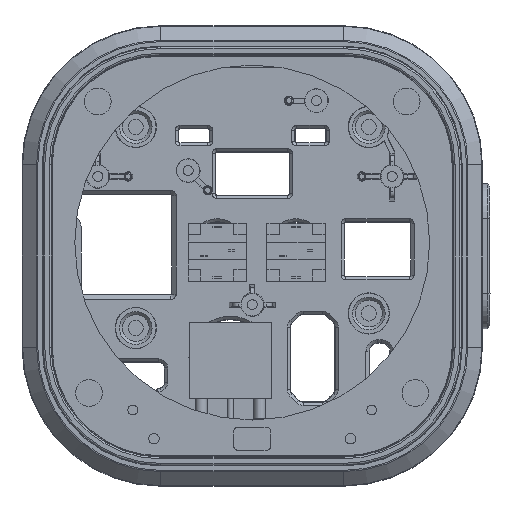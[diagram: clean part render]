
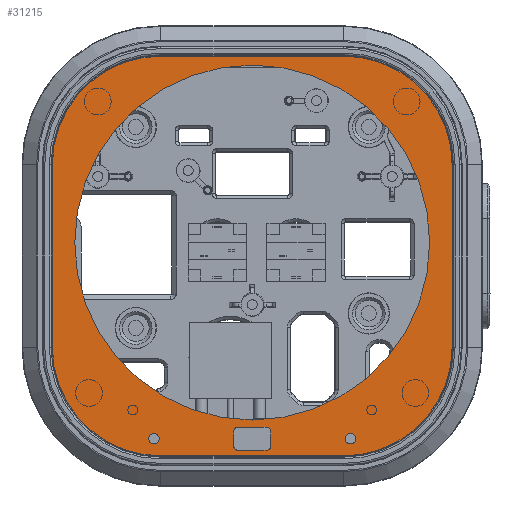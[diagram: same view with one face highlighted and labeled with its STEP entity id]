
A CAD part, front view. The second image highlights one B-rep face of the part: STEP entity #31215.
In plain terms, the highlighted planar face has unit normal (0, -1, 0).
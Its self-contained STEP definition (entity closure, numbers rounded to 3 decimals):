
#814=FACE_BOUND('',#5217,.T.);
#815=FACE_BOUND('',#5218,.T.);
#816=FACE_BOUND('',#5219,.T.);
#817=FACE_BOUND('',#5220,.T.);
#1555=PLANE('',#34063);
#3342=FACE_OUTER_BOUND('',#5216,.T.);
#5216=EDGE_LOOP('',(#26343,#26344,#26345,#26346,#26347,#26348,#26349,#26350));
#5217=EDGE_LOOP('',(#26351));
#5218=EDGE_LOOP('',(#26352));
#5219=EDGE_LOOP('',(#26353));
#5220=EDGE_LOOP('',(#26354,#26355,#26356,#26357,#26358,#26359,#26360,#26361));
#7695=LINE('',#53200,#10489);
#7696=LINE('',#53204,#10490);
#7697=LINE('',#53208,#10491);
#7698=LINE('',#53211,#10492);
#7699=LINE('',#53218,#10493);
#7700=LINE('',#53222,#10494);
#7701=LINE('',#53226,#10495);
#7702=LINE('',#53230,#10496);
#10489=VECTOR('',#41299,31.4);
#10490=VECTOR('',#41302,31.4);
#10491=VECTOR('',#41305,31.4);
#10492=VECTOR('',#41308,31.4);
#10493=VECTOR('',#41313,2.69);
#10494=VECTOR('',#41316,5.09);
#10495=VECTOR('',#41319,2.69);
#10496=VECTOR('',#41322,5.09);
#12205=CIRCLE('',#34062,30.45);
#12206=CIRCLE('',#34064,18.6);
#12207=CIRCLE('',#34065,18.6);
#12208=CIRCLE('',#34066,18.6);
#12209=CIRCLE('',#34067,18.6);
#12210=CIRCLE('',#34068,0.9);
#12211=CIRCLE('',#34069,0.9);
#12212=CIRCLE('',#34070,0.6);
#12213=CIRCLE('',#34071,0.6);
#12214=CIRCLE('',#34072,0.6);
#12215=CIRCLE('',#34073,0.6);
#14629=VERTEX_POINT('',#53192);
#14630=VERTEX_POINT('',#53196);
#14631=VERTEX_POINT('',#53197);
#14632=VERTEX_POINT('',#53199);
#14633=VERTEX_POINT('',#53201);
#14634=VERTEX_POINT('',#53203);
#14635=VERTEX_POINT('',#53205);
#14636=VERTEX_POINT('',#53207);
#14637=VERTEX_POINT('',#53209);
#14638=VERTEX_POINT('',#53212);
#14639=VERTEX_POINT('',#53214);
#14640=VERTEX_POINT('',#53216);
#14641=VERTEX_POINT('',#53217);
#14642=VERTEX_POINT('',#53219);
#14643=VERTEX_POINT('',#53221);
#14644=VERTEX_POINT('',#53223);
#14645=VERTEX_POINT('',#53225);
#14646=VERTEX_POINT('',#53227);
#14647=VERTEX_POINT('',#53229);
#18682=EDGE_CURVE('',#14629,#14629,#12205,.T.);
#18683=EDGE_CURVE('',#14630,#14631,#12206,.T.);
#18684=EDGE_CURVE('',#14631,#14632,#7695,.T.);
#18685=EDGE_CURVE('',#14632,#14633,#12207,.T.);
#18686=EDGE_CURVE('',#14633,#14634,#7696,.T.);
#18687=EDGE_CURVE('',#14634,#14635,#12208,.T.);
#18688=EDGE_CURVE('',#14635,#14636,#7697,.T.);
#18689=EDGE_CURVE('',#14636,#14637,#12209,.T.);
#18690=EDGE_CURVE('',#14637,#14630,#7698,.T.);
#18691=EDGE_CURVE('',#14638,#14638,#12210,.T.);
#18692=EDGE_CURVE('',#14639,#14639,#12211,.T.);
#18693=EDGE_CURVE('',#14640,#14641,#7699,.T.);
#18694=EDGE_CURVE('',#14641,#14642,#12212,.T.);
#18695=EDGE_CURVE('',#14642,#14643,#7700,.T.);
#18696=EDGE_CURVE('',#14643,#14644,#12213,.T.);
#18697=EDGE_CURVE('',#14644,#14645,#7701,.T.);
#18698=EDGE_CURVE('',#14645,#14646,#12214,.T.);
#18699=EDGE_CURVE('',#14646,#14647,#7702,.T.);
#18700=EDGE_CURVE('',#14647,#14640,#12215,.T.);
#26343=ORIENTED_EDGE('',*,*,#18683,.T.);
#26344=ORIENTED_EDGE('',*,*,#18684,.T.);
#26345=ORIENTED_EDGE('',*,*,#18685,.T.);
#26346=ORIENTED_EDGE('',*,*,#18686,.T.);
#26347=ORIENTED_EDGE('',*,*,#18687,.T.);
#26348=ORIENTED_EDGE('',*,*,#18688,.T.);
#26349=ORIENTED_EDGE('',*,*,#18689,.T.);
#26350=ORIENTED_EDGE('',*,*,#18690,.T.);
#26351=ORIENTED_EDGE('',*,*,#18682,.T.);
#26352=ORIENTED_EDGE('',*,*,#18691,.T.);
#26353=ORIENTED_EDGE('',*,*,#18692,.T.);
#26354=ORIENTED_EDGE('',*,*,#18693,.T.);
#26355=ORIENTED_EDGE('',*,*,#18694,.T.);
#26356=ORIENTED_EDGE('',*,*,#18695,.T.);
#26357=ORIENTED_EDGE('',*,*,#18696,.T.);
#26358=ORIENTED_EDGE('',*,*,#18697,.T.);
#26359=ORIENTED_EDGE('',*,*,#18698,.T.);
#26360=ORIENTED_EDGE('',*,*,#18699,.T.);
#26361=ORIENTED_EDGE('',*,*,#18700,.T.);
#31215=ADVANCED_FACE('',(#3342,#814,#815,#816,#817),#1555,.T.);
#34062=AXIS2_PLACEMENT_3D('',#53194,#41293,#41294);
#34063=AXIS2_PLACEMENT_3D('',#53195,#41295,#41296);
#34064=AXIS2_PLACEMENT_3D('',#53198,#41297,#41298);
#34065=AXIS2_PLACEMENT_3D('',#53202,#41300,#41301);
#34066=AXIS2_PLACEMENT_3D('',#53206,#41303,#41304);
#34067=AXIS2_PLACEMENT_3D('',#53210,#41306,#41307);
#34068=AXIS2_PLACEMENT_3D('',#53213,#41309,#41310);
#34069=AXIS2_PLACEMENT_3D('',#53215,#41311,#41312);
#34070=AXIS2_PLACEMENT_3D('',#53220,#41314,#41315);
#34071=AXIS2_PLACEMENT_3D('',#53224,#41317,#41318);
#34072=AXIS2_PLACEMENT_3D('',#53228,#41320,#41321);
#34073=AXIS2_PLACEMENT_3D('',#53231,#41323,#41324);
#41293=DIRECTION('center_axis',(0.,1.,0.));
#41294=DIRECTION('ref_axis',(1.,0.,0.));
#41295=DIRECTION('center_axis',(0.,-1.,0.));
#41296=DIRECTION('ref_axis',(1.,0.,0.));
#41297=DIRECTION('center_axis',(0.,-1.,0.));
#41298=DIRECTION('ref_axis',(1.,0.,0.));
#41299=DIRECTION('',(-1.,0.,0.));
#41300=DIRECTION('center_axis',(0.,-1.,0.));
#41301=DIRECTION('ref_axis',(0.,0.,1.));
#41302=DIRECTION('',(0.,0.,-1.));
#41303=DIRECTION('center_axis',(0.,-1.,0.));
#41304=DIRECTION('ref_axis',(-1.,0.,0.));
#41305=DIRECTION('',(1.,0.,0.));
#41306=DIRECTION('center_axis',(0.,-1.,0.));
#41307=DIRECTION('ref_axis',(0.,0.,-1.));
#41308=DIRECTION('',(0.,0.,1.));
#41309=DIRECTION('center_axis',(0.,1.,0.));
#41310=DIRECTION('ref_axis',(1.,0.,0.));
#41311=DIRECTION('center_axis',(0.,1.,0.));
#41312=DIRECTION('ref_axis',(1.,0.,0.));
#41313=DIRECTION('',(0.,0.,1.));
#41314=DIRECTION('center_axis',(0.,1.,0.));
#41315=DIRECTION('ref_axis',(-1.,0.,0.));
#41316=DIRECTION('',(1.,0.,0.));
#41317=DIRECTION('center_axis',(0.,1.,0.));
#41318=DIRECTION('ref_axis',(0.,0.,1.));
#41319=DIRECTION('',(0.,0.,-1.));
#41320=DIRECTION('center_axis',(0.,1.,0.));
#41321=DIRECTION('ref_axis',(1.,0.,0.));
#41322=DIRECTION('',(-1.,0.,0.));
#41323=DIRECTION('center_axis',(0.,1.,0.));
#41324=DIRECTION('ref_axis',(0.,0.,-1.));
#53192=CARTESIAN_POINT('',(-30.45,-0.6,-5.34));
#53194=CARTESIAN_POINT('Origin',(0.,-0.6,-5.34));
#53195=CARTESIAN_POINT('Origin',(0.,-0.6,0.));
#53196=CARTESIAN_POINT('',(34.3,-0.6,8.05));
#53197=CARTESIAN_POINT('',(15.7,-0.6,26.65));
#53198=CARTESIAN_POINT('Origin',(15.7,-0.6,8.05));
#53199=CARTESIAN_POINT('',(-15.7,-0.6,26.65));
#53200=CARTESIAN_POINT('',(15.7,-0.6,26.65));
#53201=CARTESIAN_POINT('',(-34.3,-0.6,8.05));
#53202=CARTESIAN_POINT('Origin',(-15.7,-0.6,8.05));
#53203=CARTESIAN_POINT('',(-34.3,-0.6,-23.35));
#53204=CARTESIAN_POINT('',(-34.3,-0.6,8.05));
#53205=CARTESIAN_POINT('',(-15.7,-0.6,-41.95));
#53206=CARTESIAN_POINT('Origin',(-15.7,-0.6,-23.35));
#53207=CARTESIAN_POINT('',(15.7,-0.6,-41.95));
#53208=CARTESIAN_POINT('',(-15.7,-0.6,-41.95));
#53209=CARTESIAN_POINT('',(34.3,-0.6,-23.35));
#53210=CARTESIAN_POINT('Origin',(15.7,-0.6,-23.35));
#53211=CARTESIAN_POINT('',(34.3,-0.6,-23.35));
#53212=CARTESIAN_POINT('',(15.96,-0.6,-39.));
#53213=CARTESIAN_POINT('Origin',(16.86,-0.6,-39.));
#53214=CARTESIAN_POINT('',(-17.76,-0.6,-39.));
#53215=CARTESIAN_POINT('Origin',(-16.86,-0.6,-39.));
#53216=CARTESIAN_POINT('',(-3.14,-0.6,-40.35));
#53217=CARTESIAN_POINT('',(-3.14,-0.6,-37.66));
#53218=CARTESIAN_POINT('',(-3.14,-0.6,-40.35));
#53219=CARTESIAN_POINT('',(-2.54,-0.6,-37.06));
#53220=CARTESIAN_POINT('Origin',(-2.54,-0.6,-37.66));
#53221=CARTESIAN_POINT('',(2.55,-0.6,-37.06));
#53222=CARTESIAN_POINT('',(-2.54,-0.6,-37.06));
#53223=CARTESIAN_POINT('',(3.15,-0.6,-37.66));
#53224=CARTESIAN_POINT('Origin',(2.55,-0.6,-37.66));
#53225=CARTESIAN_POINT('',(3.15,-0.6,-40.35));
#53226=CARTESIAN_POINT('',(3.15,-0.6,-37.66));
#53227=CARTESIAN_POINT('',(2.55,-0.6,-40.95));
#53228=CARTESIAN_POINT('Origin',(2.55,-0.6,-40.35));
#53229=CARTESIAN_POINT('',(-2.54,-0.6,-40.95));
#53230=CARTESIAN_POINT('',(2.55,-0.6,-40.95));
#53231=CARTESIAN_POINT('Origin',(-2.54,-0.6,-40.35));
